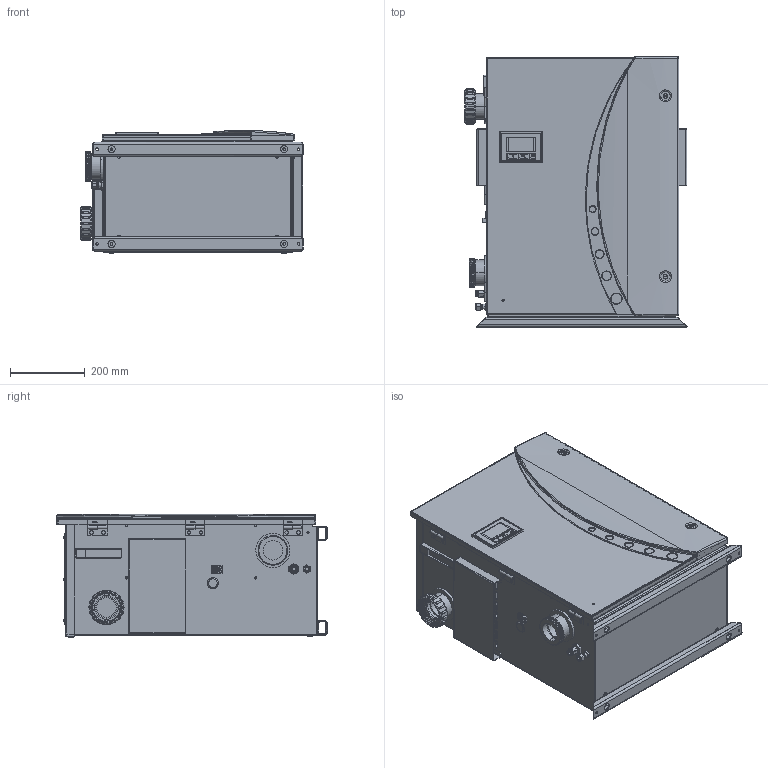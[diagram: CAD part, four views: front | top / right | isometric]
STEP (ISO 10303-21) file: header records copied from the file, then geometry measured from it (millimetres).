
FILE_DESCRIPTION (( 'STEP AP214' ), '1' );
FILE_NAME ('AOP-PRO-50&100-XX Generator.STEP', '2019-02-28T13:21:32', ( '' ), ( '' ), 'SwSTEP 2.0', 'SolidWorks 2017', '' );
FILE_SCHEMA (( 'AUTOMOTIVE_DESIGN' ));
Length unit declared in the file: inch
Products named in the file (1): AOP-PRO-50&100-XX Generator
Bounding box: 592.77 x 720.98 x 328.76 mm (x, y, z)
Surface area: 3721388 mm2 (no closed solid volume)
Topology: 0 solids, 350 shells, 1560 faces, 9337 edges, 7980 vertices
Faces by surface type: plane 672, cylinder 570, bspline 110, cone 109, sphere 53, torus 46
Entity records: 125336 total; most frequent: CARTESIAN_POINT 35400, DIRECTION 14128, ORIENTED_EDGE 11569, EDGE_CURVE 9267, VERTEX_POINT 7949, VECTOR 4970, LINE 4970, AXIS2_PLACEMENT_3D 4579
